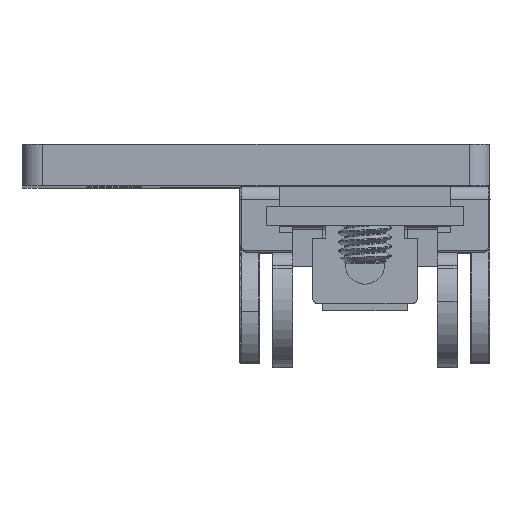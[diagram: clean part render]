
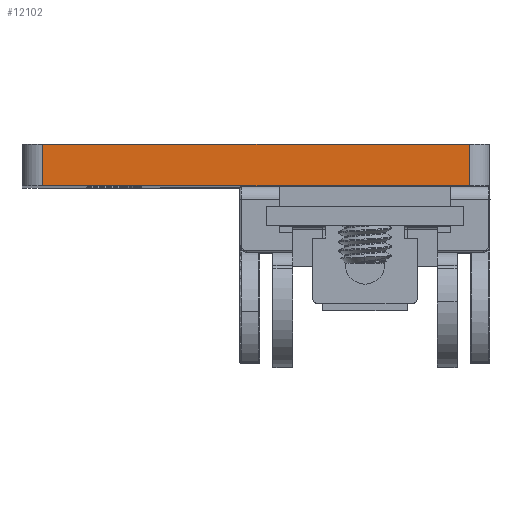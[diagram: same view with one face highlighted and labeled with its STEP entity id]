
A CAD part, top view. The second image highlights one B-rep face of the part: STEP entity #12102.
In plain terms, the highlighted planar face has unit normal (0, 0, 1).
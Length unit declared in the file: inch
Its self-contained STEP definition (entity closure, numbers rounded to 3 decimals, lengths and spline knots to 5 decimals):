
#343 = FACE_OUTER_BOUND ( 'NONE', #29446, .T. ) ;
#2545 = CARTESIAN_POINT ( 'NONE',  ( -0.6375, 0.125, 2. ) ) ;
#3635 = CARTESIAN_POINT ( 'NONE',  ( -0.6375, 0.125, 2. ) ) ;
#4026 = PLANE ( 'NONE',  #25682 ) ;
#4929 = VECTOR ( 'NONE', #5985, 39.37008 ) ;
#5749 = LINE ( 'NONE', #2545, #22633 ) ;
#5985 = DIRECTION ( 'NONE',  ( 1., 0., 0. ) ) ;
#7089 = ORIENTED_EDGE ( 'NONE', *, *, #28537, .F. ) ;
#7146 = ORIENTED_EDGE ( 'NONE', *, *, #57389, .T. ) ;
#7172 = DIRECTION ( 'NONE',  ( 1., 0., 0. ) ) ;
#8177 = DIRECTION ( 'NONE',  ( -1., 0., 0. ) ) ;
#8560 = CARTESIAN_POINT ( 'NONE',  ( 0.6375, 0.125, 2. ) ) ;
#10464 = EDGE_CURVE ( 'NONE', #53205, #17905, #5749, .T. ) ;
#12102 = ADVANCED_FACE ( 'NONE', ( #343 ), #4026, .F. ) ;
#12770 = LINE ( 'NONE', #17386, #41054 ) ;
#13367 = LINE ( 'NONE', #27818, #4929 ) ;
#15672 = EDGE_CURVE ( 'NONE', #24530, #45507, #13367, .T. ) ;
#17386 = CARTESIAN_POINT ( 'NONE',  ( -0.6375, 0.125, 2. ) ) ;
#17905 = VERTEX_POINT ( 'NONE', #8560 ) ;
#19917 = CARTESIAN_POINT ( 'NONE',  ( 0.6375, 0., 2. ) ) ;
#22633 = VECTOR ( 'NONE', #7172, 39.37008 ) ;
#24530 = VERTEX_POINT ( 'NONE', #56278 ) ;
#25682 = AXIS2_PLACEMENT_3D ( 'NONE', #3635, #35161, #8177 ) ;
#27818 = CARTESIAN_POINT ( 'NONE',  ( -0.6375, 0., 2. ) ) ;
#28527 = ORIENTED_EDGE ( 'NONE', *, *, #15672, .T. ) ;
#28537 = EDGE_CURVE ( 'NONE', #17905, #45507, #57622, .T. ) ;
#29446 = EDGE_LOOP ( 'NONE', ( #28527, #7089, #52432, #7146 ) ) ;
#30337 = CARTESIAN_POINT ( 'NONE',  ( 0.6375, 0.125, 2. ) ) ;
#30730 = VECTOR ( 'NONE', #43431, 39.37008 ) ;
#32105 = CARTESIAN_POINT ( 'NONE',  ( -0.6375, 0.125, 2. ) ) ;
#35161 = DIRECTION ( 'NONE',  ( 0., 0., -1. ) ) ;
#41054 = VECTOR ( 'NONE', #48955, 39.37008 ) ;
#43431 = DIRECTION ( 'NONE',  ( 0., -1., 0. ) ) ;
#45507 = VERTEX_POINT ( 'NONE', #19917 ) ;
#48955 = DIRECTION ( 'NONE',  ( 0., -1., 0. ) ) ;
#52432 = ORIENTED_EDGE ( 'NONE', *, *, #10464, .F. ) ;
#53205 = VERTEX_POINT ( 'NONE', #32105 ) ;
#56278 = CARTESIAN_POINT ( 'NONE',  ( -0.6375, 0., 2. ) ) ;
#57389 = EDGE_CURVE ( 'NONE', #53205, #24530, #12770, .T. ) ;
#57622 = LINE ( 'NONE', #30337, #30730 ) ;
